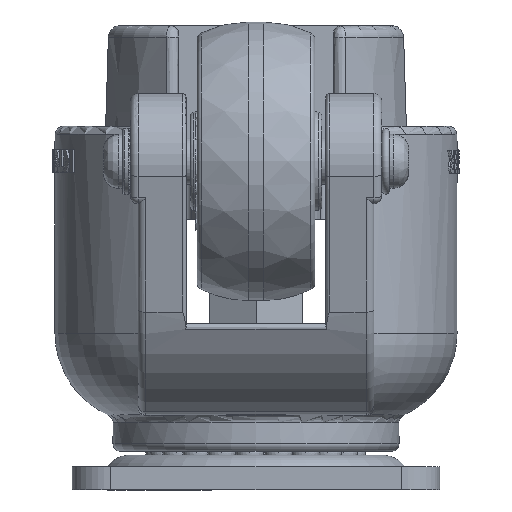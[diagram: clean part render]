
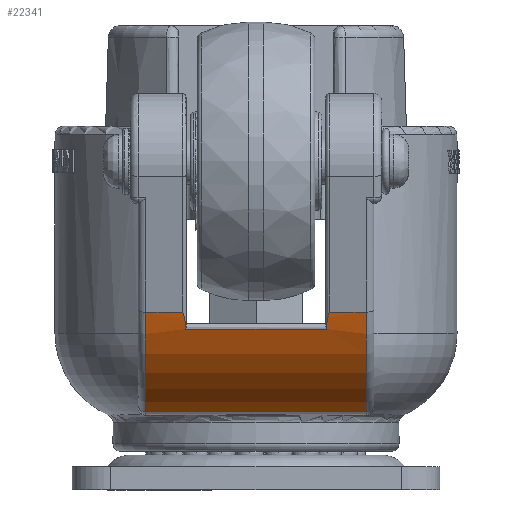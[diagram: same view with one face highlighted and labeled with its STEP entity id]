
A CAD part, left-side view. The second image highlights one B-rep face of the part: STEP entity #22341.
In plain terms, the highlighted cylindrical face has radius 39.869 mm (diameter 79.737 mm), a partial arc.
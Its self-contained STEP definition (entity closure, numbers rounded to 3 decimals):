
#290=LINE('',#34299,#2098);
#593=LINE('',#39233,#2401);
#595=LINE('',#39270,#2403);
#596=LINE('',#39271,#2404);
#2098=VECTOR('',#26121,1000.);
#2401=VECTOR('',#27184,1000.);
#2403=VECTOR('',#27190,1000.);
#2404=VECTOR('',#27191,1000.);
#3885=CYLINDRICAL_SURFACE('',#24033,39.869);
#4242=B_SPLINE_CURVE_WITH_KNOTS('',3,(#39237,#39238,#39239,#39240,#39241,
#39242,#39243,#39244,#39245,#39246,#39247,#39248,#39249,#39250,#39251,#39252),
 .UNSPECIFIED.,.F.,.F.,(4,2,2,2,2,2,2,4),(0.,0.003,0.006,
0.024,0.088,0.153,0.405,
0.451),.UNSPECIFIED.);
#4243=B_SPLINE_CURVE_WITH_KNOTS('',3,(#39254,#39255,#39256,#39257,#39258,
#39259,#39260,#39261,#39262,#39263,#39264,#39265,#39266,#39267,#39268,#39269),
 .UNSPECIFIED.,.F.,.F.,(4,2,2,2,2,2,2,4),(0.58,0.741,
0.864,0.987,1.023,1.028,1.031,
1.033),.UNSPECIFIED.);
#6183=FACE_OUTER_BOUND('',#7547,.T.);
#7547=EDGE_LOOP('',(#16892,#16893,#16894,#16895,#16896,#16897,#16898,#16899));
#8944=CIRCLE('',#23975,39.869);
#8954=CIRCLE('',#23999,39.869);
#9907=VERTEX_POINT('',#34267);
#9911=VERTEX_POINT('',#34286);
#10170=VERTEX_POINT('',#38097);
#10173=VERTEX_POINT('',#38144);
#10177=VERTEX_POINT('',#38175);
#10179=VERTEX_POINT('',#38220);
#10207=VERTEX_POINT('',#39231);
#10208=VERTEX_POINT('',#39253);
#12149=EDGE_CURVE('',#9907,#9911,#290,.T.);
#12630=EDGE_CURVE('',#10170,#10173,#8944,.T.);
#12650=EDGE_CURVE('',#10179,#10177,#8954,.T.);
#12712=EDGE_CURVE('',#10207,#10170,#593,.T.);
#12714=EDGE_CURVE('',#10207,#9907,#4242,.T.);
#12715=EDGE_CURVE('',#9911,#10208,#4243,.T.);
#12716=EDGE_CURVE('',#10208,#10177,#595,.T.);
#12717=EDGE_CURVE('',#10179,#10173,#596,.T.);
#16892=ORIENTED_EDGE('',*,*,#12714,.T.);
#16893=ORIENTED_EDGE('',*,*,#12149,.T.);
#16894=ORIENTED_EDGE('',*,*,#12715,.T.);
#16895=ORIENTED_EDGE('',*,*,#12716,.T.);
#16896=ORIENTED_EDGE('',*,*,#12650,.F.);
#16897=ORIENTED_EDGE('',*,*,#12717,.T.);
#16898=ORIENTED_EDGE('',*,*,#12630,.F.);
#16899=ORIENTED_EDGE('',*,*,#12712,.F.);
#22341=ADVANCED_FACE('',(#6183),#3885,.T.);
#23975=AXIS2_PLACEMENT_3D('',#38145,#27035,#27036);
#23999=AXIS2_PLACEMENT_3D('',#38222,#27090,#27091);
#24033=AXIS2_PLACEMENT_3D('',#39236,#27188,#27189);
#26121=DIRECTION('',(0.,1.,0.));
#27035=DIRECTION('center_axis',(0.,-1.,0.));
#27036=DIRECTION('ref_axis',(1.,0.,0.));
#27090=DIRECTION('center_axis',(0.,1.,0.));
#27091=DIRECTION('ref_axis',(-1.,0.,0.));
#27184=DIRECTION('',(0.,-1.,0.));
#27188=DIRECTION('center_axis',(0.,1.,0.));
#27189=DIRECTION('ref_axis',(-1.,0.,0.));
#27190=DIRECTION('',(0.,1.,0.));
#27191=DIRECTION('',(0.,-1.,0.));
#34267=CARTESIAN_POINT('',(-62.419,-18.103,16.607));
#34286=CARTESIAN_POINT('',(-62.419,18.103,16.607));
#34299=CARTESIAN_POINT('',(-62.419,0.,16.607));
#38097=CARTESIAN_POINT('',(-64.,-28.5,21.));
#38144=CARTESIAN_POINT('',(-40.35,-28.5,-4.824));
#38145=CARTESIAN_POINT('Origin',(-25.76,-28.5,32.278));
#38175=CARTESIAN_POINT('',(-64.,28.5,21.));
#38220=CARTESIAN_POINT('',(-40.35,28.5,-4.824));
#38222=CARTESIAN_POINT('Origin',(-25.76,28.5,32.278));
#39231=CARTESIAN_POINT('',(-64.,-19.,21.));
#39233=CARTESIAN_POINT('',(-64.,0.,21.));
#39236=CARTESIAN_POINT('Origin',(-25.76,0.,32.278));
#39237=CARTESIAN_POINT('Ctrl Pts',(-64.,-19.,21.));
#39238=CARTESIAN_POINT('Ctrl Pts',(-64.,-18.989,
21.));
#39239=CARTESIAN_POINT('Ctrl Pts',(-63.999,-18.978,
20.997));
#39240=CARTESIAN_POINT('Ctrl Pts',(-63.996,-18.958,20.987));
#39241=CARTESIAN_POINT('Ctrl Pts',(-63.994,-18.949,
20.98));
#39242=CARTESIAN_POINT('Ctrl Pts',(-63.981,-18.899,
20.935));
#39243=CARTESIAN_POINT('Ctrl Pts',(-63.963,-18.87,20.874));
#39244=CARTESIAN_POINT('Ctrl Pts',(-63.891,-18.763,
20.634));
#39245=CARTESIAN_POINT('Ctrl Pts',(-63.824,-18.71,20.416));
#39246=CARTESIAN_POINT('Ctrl Pts',(-63.685,-18.607,
19.979));
#39247=CARTESIAN_POINT('Ctrl Pts',(-63.612,-18.562,
19.758));
#39248=CARTESIAN_POINT('Ctrl Pts',(-63.281,-18.373,
18.776));
#39249=CARTESIAN_POINT('Ctrl Pts',(-62.964,-18.245,
17.919));
#39250=CARTESIAN_POINT('Ctrl Pts',(-62.551,-18.134,
16.917));
#39251=CARTESIAN_POINT('Ctrl Pts',(-62.485,-18.118,
16.761));
#39252=CARTESIAN_POINT('Ctrl Pts',(-62.419,-18.103,16.607));
#39253=CARTESIAN_POINT('',(-64.,19.,21.));
#39254=CARTESIAN_POINT('Ctrl Pts',(-62.419,18.103,16.607));
#39255=CARTESIAN_POINT('Ctrl Pts',(-62.649,18.154,17.144));
#39256=CARTESIAN_POINT('Ctrl Pts',(-62.864,18.221,17.68));
#39257=CARTESIAN_POINT('Ctrl Pts',(-63.195,18.348,18.556));
#39258=CARTESIAN_POINT('Ctrl Pts',(-63.346,18.415,18.975));
#39259=CARTESIAN_POINT('Ctrl Pts',(-63.632,18.57,19.813));
#39260=CARTESIAN_POINT('Ctrl Pts',(-63.768,18.651,20.234));
#39261=CARTESIAN_POINT('Ctrl Pts',(-63.917,18.804,20.721));
#39262=CARTESIAN_POINT('Ctrl Pts',(-63.957,18.845,20.855));
#39263=CARTESIAN_POINT('Ctrl Pts',(-63.988,18.928,20.961));
#39264=CARTESIAN_POINT('Ctrl Pts',(-63.992,18.94,20.974));
#39265=CARTESIAN_POINT('Ctrl Pts',(-63.997,18.961,20.988));
#39266=CARTESIAN_POINT('Ctrl Pts',(-63.998,18.968,20.993));
#39267=CARTESIAN_POINT('Ctrl Pts',(-64.,18.984,20.998));
#39268=CARTESIAN_POINT('Ctrl Pts',(-64.,18.992,21.));
#39269=CARTESIAN_POINT('Ctrl Pts',(-64.,19.,21.));
#39270=CARTESIAN_POINT('',(-64.,0.,21.));
#39271=CARTESIAN_POINT('',(-40.35,0.,-4.824));
